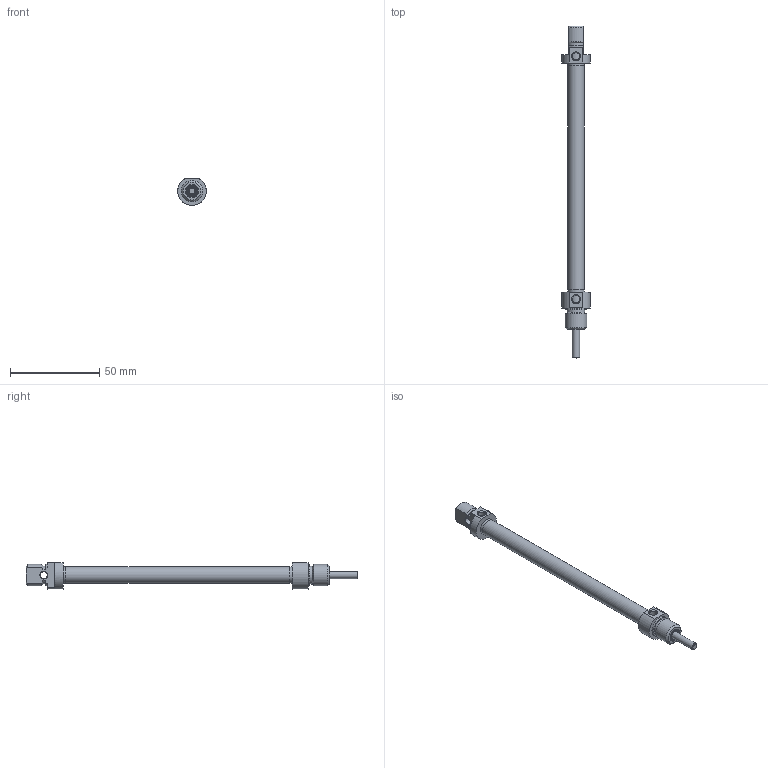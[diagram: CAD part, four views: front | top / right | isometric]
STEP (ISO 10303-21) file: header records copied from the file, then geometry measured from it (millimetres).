
FILE_DESCRIPTION((''),'2;1');
FILE_NAME('T:\Archivio Inventor\- 00 NUOVI STP PER SITO CON STELO CHE SI MUOVE\SERIE O\ODM\ODM008.---.GS.M\ODM008.100.GS.M.stp','2014-02-25T14:17:56',('carlo.corazza'),(''),'Autodesk Inventor 2012','Autodesk Inventor 2012','');
FILE_SCHEMA(('AUTOMOTIVE_DESIGN { 1 0 10303 214 1 1 1 1 }'));
Length unit declared in the file: millimetre
Products named in the file (5): ODM008..GS.M; TP; STELO-100; CORPO-100; TA
Assembly tree (4 placements, depth 2):
  ODM008..GS.M
    TP
    STELO-100
    CORPO-100
    TA
Bounding box: 16 x 186 x 15 mm (x, y, z)
Volume: 9363.3 mm3; surface area: 11965 mm2
Topology: 4 solids, 4 shells, 90 faces, 180 edges, 114 vertices
Faces by surface type: plane 32, cylinder 29, cone 22, torus 7
Full cylindrical faces by diameter (mm): 3 x1, 4 x2, 4.134 x2, 4.426 x1, 4.7 x1, 6.5 x1, 6.6 x1, 6.7 x1, 8 x1, 8.1 x1, 8.2 x1, 9.2 x2, 9.27 x1, 10 x1, 12 x2
Entity records: 2353 total; most frequent: CARTESIAN_POINT 419, DIRECTION 402, ORIENTED_EDGE 260, AXIS2_PLACEMENT_3D 183, EDGE_LOOP 154, EDGE_CURVE 130, VERTEX_POINT 108, FACE_OUTER_BOUND 90
